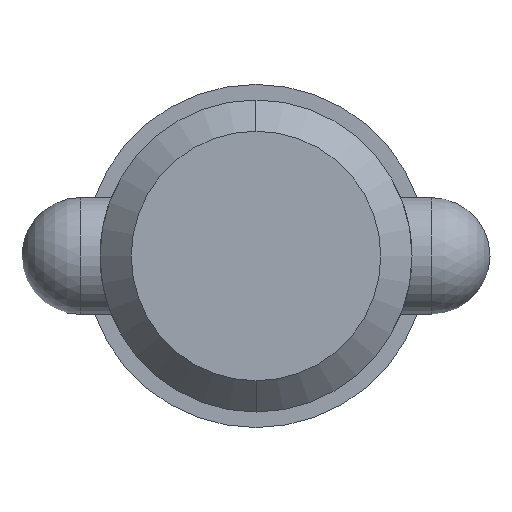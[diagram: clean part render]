
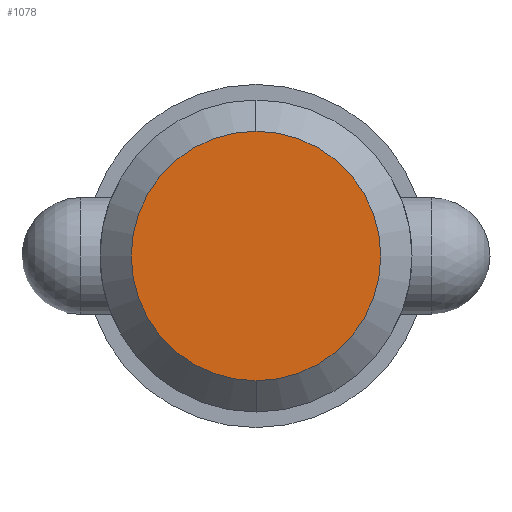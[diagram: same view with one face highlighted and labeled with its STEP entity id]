
A CAD part, left-side view. The second image highlights one B-rep face of the part: STEP entity #1078.
In plain terms, the highlighted planar face has unit normal (-1, 0, 0).
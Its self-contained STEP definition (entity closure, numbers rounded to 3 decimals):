
#1 = EDGE_LOOP ( 'NONE', ( #23, #474 ) ) ;
#23 = ORIENTED_EDGE ( 'NONE', *, *, #739, .F. ) ;
#69 = CARTESIAN_POINT ( 'NONE',  ( 0., 0., 0. ) ) ;
#169 = CARTESIAN_POINT ( 'NONE',  ( 0., 0., 0. ) ) ;
#281 = CIRCLE ( 'NONE', #356, 10.16 ) ;
#328 = FACE_OUTER_BOUND ( 'NONE', #1, .T. ) ;
#356 = AXIS2_PLACEMENT_3D ( 'NONE', #169, #771, #763 ) ;
#434 = VERTEX_POINT ( 'NONE', #909 ) ;
#465 = DIRECTION ( 'NONE',  ( 1., 0., 0. ) ) ;
#474 = ORIENTED_EDGE ( 'NONE', *, *, #642, .F. ) ;
#476 = DIRECTION ( 'NONE',  ( 0., 0., -1. ) ) ;
#545 = CIRCLE ( 'NONE', #630, 10.16 ) ;
#603 = VERTEX_POINT ( 'NONE', #833 ) ;
#630 = AXIS2_PLACEMENT_3D ( 'NONE', #69, #465, #476 ) ;
#642 = EDGE_CURVE ( 'NONE', #434, #603, #545, .T. ) ;
#661 = CARTESIAN_POINT ( 'NONE',  ( 0., 0., 0. ) ) ;
#710 = AXIS2_PLACEMENT_3D ( 'NONE', #661, #997, #755 ) ;
#739 = EDGE_CURVE ( 'NONE', #603, #434, #281, .T. ) ;
#755 = DIRECTION ( 'NONE',  ( 0., 0., 1. ) ) ;
#763 = DIRECTION ( 'NONE',  ( 0., 0., -1. ) ) ;
#771 = DIRECTION ( 'NONE',  ( 1., 0., 0. ) ) ;
#833 = CARTESIAN_POINT ( 'NONE',  ( 0., 0., -10.16 ) ) ;
#909 = CARTESIAN_POINT ( 'NONE',  ( 0., 0., 10.16 ) ) ;
#997 = DIRECTION ( 'NONE',  ( -1., 0., 0. ) ) ;
#1002 = PLANE ( 'NONE',  #710 ) ;
#1078 = ADVANCED_FACE ( 'NONE', ( #328 ), #1002, .T. ) ;
